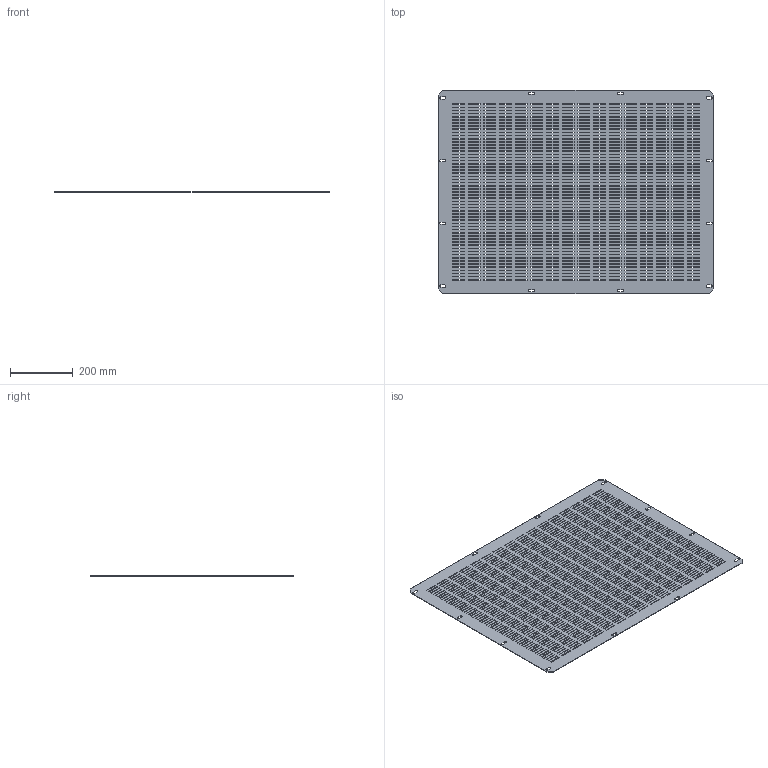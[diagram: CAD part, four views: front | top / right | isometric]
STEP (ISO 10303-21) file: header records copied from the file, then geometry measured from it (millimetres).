
FILE_DESCRIPTION (( 'STEP AP214' ), '1' );
FILE_NAME ('FO-00-FBV-080-100 Ôëàíåö îñíîâàíèÿ âåíòèëèðóåìûé â øêàô 800õ1000 ìì.STEP', '2025-07-31T07:03:38', ( '' ), ( '' ), 'SwSTEP 2.0', 'SolidWorks 2023', '' );
FILE_SCHEMA (( 'AUTOMOTIVE_DESIGN' ));
Products named in the file (1): FO-00-FBV-080-100 Фланец основания вентилируемый в шкаф 800х1000 мм
Bounding box: 880 x 648 x 1.5 mm (x, y, z)
Volume: 749828.5 mm3; surface area: 1113216.5 mm2
Topology: 1 solids, 1 shells, 3718 faces, 11148 edges, 7432 vertices
Faces by surface type: plane 3682, cylinder 36
Entity records: 126443 total; most frequent: CARTESIAN_POINT 22299, ORIENTED_EDGE 22296, DIRECTION 18658, EDGE_CURVE 11148, VECTOR 11076, LINE 11076, VERTEX_POINT 7432, EDGE_LOOP 5566
